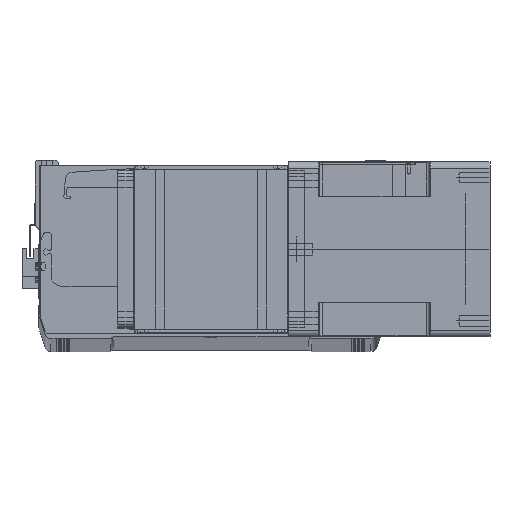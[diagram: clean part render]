
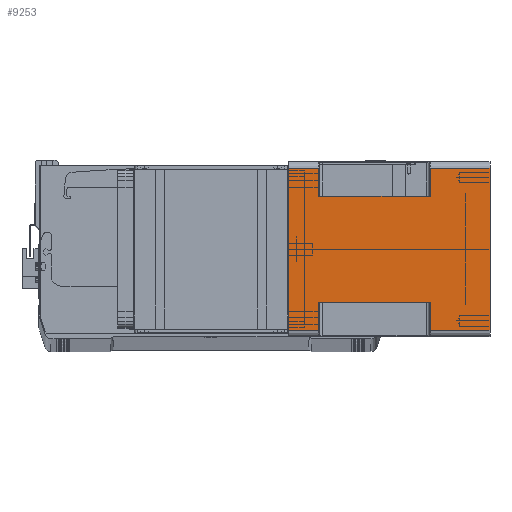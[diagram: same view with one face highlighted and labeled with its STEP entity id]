
A CAD part, top view. The second image highlights one B-rep face of the part: STEP entity #9253.
In plain terms, the highlighted planar face has unit normal (0, 0, 1) as drawn and (1, 0, 0) by its records, which use the part's own axes.
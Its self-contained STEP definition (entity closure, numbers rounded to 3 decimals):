
#278 = VECTOR ( 'NONE', #20514, 1000. ) ;
#531 = VERTEX_POINT ( 'NONE', #20440 ) ;
#1034 = CARTESIAN_POINT ( 'NONE',  ( 71., 66., 0. ) ) ;
#1387 = EDGE_CURVE ( 'NONE', #17009, #7964, #13880, .T. ) ;
#2051 = VECTOR ( 'NONE', #39355, 1000. ) ;
#2556 = CARTESIAN_POINT ( 'NONE',  ( 71., 66., -164. ) ) ;
#2744 = CARTESIAN_POINT ( 'NONE',  ( 71., -66., -164. ) ) ;
#3141 = CARTESIAN_POINT ( 'NONE',  ( 71., -43., -164. ) ) ;
#3196 = VECTOR ( 'NONE', #35449, 1000. ) ;
#3251 = VERTEX_POINT ( 'NONE', #41458 ) ;
#3742 = CARTESIAN_POINT ( 'NONE',  ( 71., -66., -164. ) ) ;
#5338 = EDGE_CURVE ( 'NONE', #3251, #34044, #20636, .T. ) ;
#5521 = EDGE_CURVE ( 'NONE', #29424, #15897, #22703, .T. ) ;
#5646 = EDGE_CURVE ( 'NONE', #41385, #10589, #15967, .T. ) ;
#5726 = ORIENTED_EDGE ( 'NONE', *, *, #19461, .F. ) ;
#7215 = DIRECTION ( 'NONE',  ( 0., 1., 0. ) ) ;
#7403 = EDGE_CURVE ( 'NONE', #34044, #15253, #41428, .T. ) ;
#7852 = EDGE_CURVE ( 'NONE', #38284, #3251, #40390, .T. ) ;
#7964 = VERTEX_POINT ( 'NONE', #37026 ) ;
#8685 = DIRECTION ( 'NONE',  ( 1., 0., 0. ) ) ;
#8737 = CARTESIAN_POINT ( 'NONE',  ( 71., -66., -24.5 ) ) ;
#9253 = ADVANCED_FACE ( 'NONE', ( #20386 ), #18160, .T. ) ;
#10435 = EDGE_CURVE ( 'NONE', #7964, #36179, #25396, .T. ) ;
#10488 = EDGE_CURVE ( 'NONE', #38284, #10589, #36190, .T. ) ;
#10530 = CARTESIAN_POINT ( 'NONE',  ( 71., 43., -24.5 ) ) ;
#10589 = VERTEX_POINT ( 'NONE', #15023 ) ;
#10731 = EDGE_CURVE ( 'NONE', #29424, #531, #39249, .T. ) ;
#10778 = CARTESIAN_POINT ( 'NONE',  ( 71., -66., 0. ) ) ;
#11397 = DIRECTION ( 'NONE',  ( 0., -1., 0. ) ) ;
#12135 = VECTOR ( 'NONE', #32340, 1000. ) ;
#12358 = CARTESIAN_POINT ( 'NONE',  ( 71., -43., -24.5 ) ) ;
#12832 = ORIENTED_EDGE ( 'NONE', *, *, #5521, .T. ) ;
#12893 = CARTESIAN_POINT ( 'NONE',  ( 71., 43., -164. ) ) ;
#13173 = EDGE_CURVE ( 'NONE', #17009, #15253, #32328, .T. ) ;
#13585 = CARTESIAN_POINT ( 'NONE',  ( 71., -43., -24.5 ) ) ;
#13614 = DIRECTION ( 'NONE',  ( 0., 0., 1. ) ) ;
#13880 = LINE ( 'NONE', #8737, #19043 ) ;
#14735 = CARTESIAN_POINT ( 'NONE',  ( 71., -66., -164. ) ) ;
#14882 = ORIENTED_EDGE ( 'NONE', *, *, #10488, .F. ) ;
#15023 = CARTESIAN_POINT ( 'NONE',  ( 71., -66., -115.5 ) ) ;
#15253 = VERTEX_POINT ( 'NONE', #20726 ) ;
#15526 = ORIENTED_EDGE ( 'NONE', *, *, #7403, .T. ) ;
#15897 = VERTEX_POINT ( 'NONE', #12358 ) ;
#15967 = LINE ( 'NONE', #20886, #28824 ) ;
#16182 = ORIENTED_EDGE ( 'NONE', *, *, #33978, .F. ) ;
#17009 = VERTEX_POINT ( 'NONE', #10530 ) ;
#18158 = VECTOR ( 'NONE', #13614, 1000. ) ;
#18160 = PLANE ( 'NONE',  #27124 ) ;
#18451 = CARTESIAN_POINT ( 'NONE',  ( 71., -66., -164. ) ) ;
#18965 = VECTOR ( 'NONE', #22409, 1000. ) ;
#19043 = VECTOR ( 'NONE', #38040, 1000. ) ;
#19461 = EDGE_CURVE ( 'NONE', #41385, #15897, #32339, .T. ) ;
#20386 = FACE_OUTER_BOUND ( 'NONE', #31659, .T. ) ;
#20440 = CARTESIAN_POINT ( 'NONE',  ( 71., -66., 0. ) ) ;
#20514 = DIRECTION ( 'NONE',  ( 0., 1., 0. ) ) ;
#20636 = LINE ( 'NONE', #2556, #3196 ) ;
#20726 = CARTESIAN_POINT ( 'NONE',  ( 71., 43., -115.5 ) ) ;
#20886 = CARTESIAN_POINT ( 'NONE',  ( 71., -66., -115.5 ) ) ;
#22020 = ORIENTED_EDGE ( 'NONE', *, *, #5646, .T. ) ;
#22409 = DIRECTION ( 'NONE',  ( 0., 0., -1. ) ) ;
#22703 = LINE ( 'NONE', #13585, #23200 ) ;
#22819 = LINE ( 'NONE', #10778, #39254 ) ;
#22888 = ORIENTED_EDGE ( 'NONE', *, *, #5338, .T. ) ;
#23200 = VECTOR ( 'NONE', #36845, 1000. ) ;
#24145 = CARTESIAN_POINT ( 'NONE',  ( 71., -43., -115.5 ) ) ;
#25396 = LINE ( 'NONE', #33312, #18158 ) ;
#26188 = ORIENTED_EDGE ( 'NONE', *, *, #13173, .F. ) ;
#26961 = ORIENTED_EDGE ( 'NONE', *, *, #10435, .T. ) ;
#27124 = AXIS2_PLACEMENT_3D ( 'NONE', #18451, #8685, #41578 ) ;
#27527 = ORIENTED_EDGE ( 'NONE', *, *, #1387, .T. ) ;
#28824 = VECTOR ( 'NONE', #11397, 1000. ) ;
#29307 = ORIENTED_EDGE ( 'NONE', *, *, #7852, .T. ) ;
#29424 = VERTEX_POINT ( 'NONE', #42114 ) ;
#30503 = VECTOR ( 'NONE', #34087, 1000. ) ;
#31659 = EDGE_LOOP ( 'NONE', ( #5726, #22020, #14882, #29307, #22888, #15526, #26188, #27527, #26961, #16182, #34975, #12832 ) ) ;
#32328 = LINE ( 'NONE', #12893, #18965 ) ;
#32339 = LINE ( 'NONE', #3141, #2051 ) ;
#32340 = DIRECTION ( 'NONE',  ( 0., -1., 0. ) ) ;
#33312 = CARTESIAN_POINT ( 'NONE',  ( 71., 66., -164. ) ) ;
#33978 = EDGE_CURVE ( 'NONE', #531, #36179, #22819, .T. ) ;
#34044 = VERTEX_POINT ( 'NONE', #37764 ) ;
#34087 = DIRECTION ( 'NONE',  ( 0., 0., 1. ) ) ;
#34975 = ORIENTED_EDGE ( 'NONE', *, *, #10731, .F. ) ;
#35170 = VECTOR ( 'NONE', #40615, 1000. ) ;
#35449 = DIRECTION ( 'NONE',  ( 0., 0., 1. ) ) ;
#36179 = VERTEX_POINT ( 'NONE', #1034 ) ;
#36190 = LINE ( 'NONE', #14735, #35170 ) ;
#36845 = DIRECTION ( 'NONE',  ( 0., 1., 0. ) ) ;
#37026 = CARTESIAN_POINT ( 'NONE',  ( 71., 66., -24.5 ) ) ;
#37764 = CARTESIAN_POINT ( 'NONE',  ( 71., 66., -115.5 ) ) ;
#38040 = DIRECTION ( 'NONE',  ( 0., 1., 0. ) ) ;
#38284 = VERTEX_POINT ( 'NONE', #2744 ) ;
#39249 = LINE ( 'NONE', #41022, #30503 ) ;
#39254 = VECTOR ( 'NONE', #7215, 1000. ) ;
#39355 = DIRECTION ( 'NONE',  ( 0., 0., 1. ) ) ;
#40390 = LINE ( 'NONE', #3742, #278 ) ;
#40615 = DIRECTION ( 'NONE',  ( 0., 0., 1. ) ) ;
#41022 = CARTESIAN_POINT ( 'NONE',  ( 71., -66., -164. ) ) ;
#41385 = VERTEX_POINT ( 'NONE', #24145 ) ;
#41428 = LINE ( 'NONE', #42107, #12135 ) ;
#41458 = CARTESIAN_POINT ( 'NONE',  ( 71., 66., -164. ) ) ;
#41578 = DIRECTION ( 'NONE',  ( 0., 1., 0. ) ) ;
#42107 = CARTESIAN_POINT ( 'NONE',  ( 71., 43., -115.5 ) ) ;
#42114 = CARTESIAN_POINT ( 'NONE',  ( 71., -66., -24.5 ) ) ;
